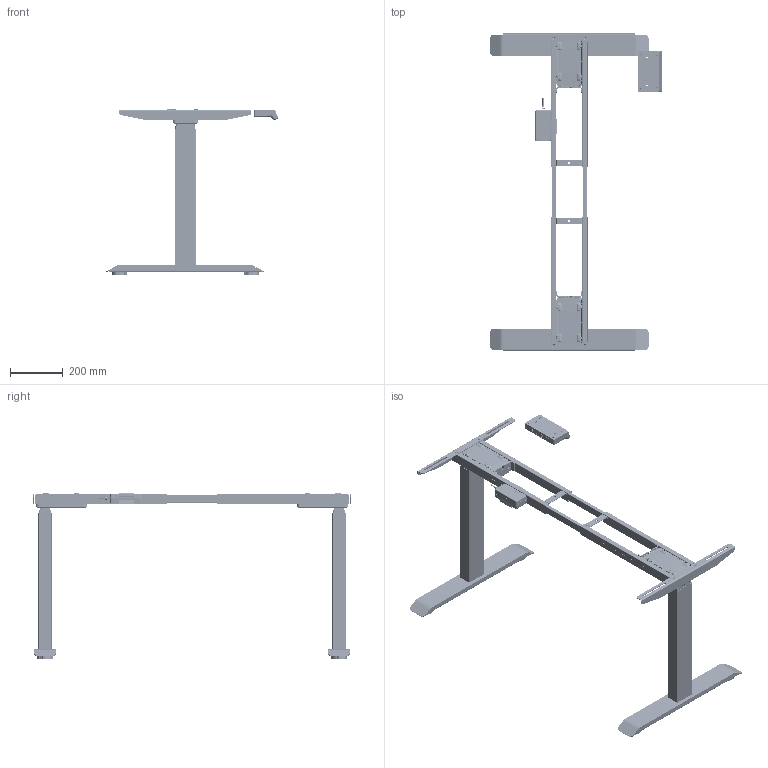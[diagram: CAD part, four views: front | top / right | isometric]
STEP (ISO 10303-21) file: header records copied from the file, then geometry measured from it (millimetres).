
FILE_DESCRIPTION (( 'STEP AP203' ), '1' );
FILE_NAME ('AK2YJYT-TYZB3-M80-T0437.STEP', '2026-06-16T05:52:46', ( '' ), ( '' ), 'SwSTEP 2.0', 'SolidWorks 2018', '' );
FILE_SCHEMA (( 'CONFIG_CONTROL_DESIGN' ));
Length unit declared in the file: millimetre
Products named in the file (37): ^1.15.048__AK2YJYT-TYZB3-M02(0241)-T0273(2)_AK2YJYT-TYZB3-M02(0241)-T0273; ________C1.96.008^_T797-_____AK2YJYT-TYZB3-M02(0241)-T0273(2)_AK2YJYT-TYZB3-M02(0241)-T0273; 1.12.011.X AK-DJ01E-600X-2^1.12.017 AK-DJ01-600X; AK-DJ01-600X-1^1.12.017 AK-DJ01-600X; T797-____^AK2YJYT-TYZB3-M02(0241)-T0273(2)_AK2YJYT-TYZB3-M02(0241)-T0273; 葩璃 (4) ^________C1.96.008__T797-_____AK2YJYT-TYZB3-M02(0241)-T0273(2)_AK2YJYT-TYZB3-M02(0241)-T0273; ________C1.96.008^葩璃 (2) _T797-_____AK2YJYT-TYZB3-M02(0241)-T0273(2)_AK2YJYT-TYZB3-M02(0241)-T0273; 1.17.021^__AK2YJYT-TYZB3-M02(0241)-T0273(2)_AK2YJYT-TYZB3-M02(0241)-T0273; 1.50.001^AK2YJYT-TYZB3-M02(0241)-T0273(2)_AK2YJYT-TYZB3-M02(0241)-T0273; 葩璃 (2) ^________C1.96.008_葩璃 (2) _T797-_____AK2YJYT-TYZB3-M02(0241)-T0273(2)_AK2YJYT-TYZB3-M02(0241)-T0273; 葩璃 (3) ^________C1.96.008_葩璃 (2) _T797-_____AK2YJYT-TYZB3-M02(0241)-T0273(2)_AK2YJYT-TYZB3-M02(0241)-T0273; 葩璃 (2) ^________C1.96.008__T797-_____AK2YJYT-TYZB3-M02(0241)-T0273(2)_AK2YJYT-TYZB3-M02(0241)-T0273; H76^AK2YJYT-TYZB3-M02(0241)-T0273(2)_AK2YJYT-TYZB3-M02(0241)-T0273; 1.27.068^_T797-_____AK2YJYT-TYZB3-M02(0241)-T0273(2)_AK2YJYT-TYZB3-M02(0241)-T0273; 1.14.016^_AK2YJYT-TYZB3-M02(0241)-T0273(2)_AK2YJYT-TYZB3-M02(0241)-T0273; 1.12.017 AK-DJ01-600X; 葩璃 (5) ^________C1.96.008_葩璃 (2) _T797-_____AK2YJYT-TYZB3-M02(0241)-T0273(2)_AK2YJYT-TYZB3-M02(0241)-T0273; 葩璃 (4) ^________C1.96.008_葩璃 (2) _T797-_____AK2YJYT-TYZB3-M02(0241)-T0273(2)_AK2YJYT-TYZB3-M02(0241)-T0273; ^________C1.96.008_葩璃 (2) _T797-_____AK2YJYT-TYZB3-M02(0241)-T0273(2)_AK2YJYT-TYZB3-M02(0241)-T0273; 葩璃 (3) ^________C1.96.008__T797-_____AK2YJYT-TYZB3-M02(0241)-T0273(2)_AK2YJYT-TYZB3-M02(0241)-T0273; AK-ZHHL02J-990A^T797-_____AK2YJYT-TYZB3-M02(0241)-T0273(2)_AK2YJYT-TYZB3-M02(0241)-T0273; AK2YJYT-TYZB3-M80-T0437; 1.20.019.X AK-SPQGDJ-01^AK2YJYT-TYZB3-M02(0241)-T0273(2)_AK2YJYT-TYZB3-M02(0241)-T0273; ^_AK2YJYT-TYZB3-M02(0241)-T0273(2)_AK2YJYT-TYZB3-M02(0241)-T0273; AS46^AK2YJYT-TYZB3-M02(0241)-T0273(2)_AK2YJYT-TYZB3-M02(0241)-T0273; 葩璃 (2) ^1.15.048__AK2YJYT-TYZB3-M02(0241)-T0273(2)_AK2YJYT-TYZB3-M02(0241)-T0273; ^T797-_____AK2YJYT-TYZB3-M02(0241)-T0273(2)_AK2YJYT-TYZB3-M02(0241)-T0273; ^__AK2YJYT-TYZB3-M02(0241)-T0273(2)_AK2YJYT-TYZB3-M02(0241)-T0273; 1.15.048^_AK2YJYT-TYZB3-M02(0241)-T0273(2)_AK2YJYT-TYZB3-M02(0241)-T0273; ^________C1.96.008__T797-_____AK2YJYT-TYZB3-M02(0241)-T0273(2)_AK2YJYT-TYZB3-M02(0241)-T0273; 葩璃 (5) ^________C1.96.008__T797-_____AK2YJYT-TYZB3-M02(0241)-T0273(2)_AK2YJYT-TYZB3-M02(0241)-T0273; 1.27.068^葩璃 (2) _T797-_____AK2YJYT-TYZB3-M02(0241)-T0273(2)_AK2YJYT-TYZB3-M02(0241)-T0273; 1.17.020^__AK2YJYT-TYZB3-M02(0241)-T0273(2)_AK2YJYT-TYZB3-M02(0241)-T0273; AK-ZYS05Y-500WC-T0194; ^AK2YJYT-TYZB3-M02(0241)-T0273(2)_AK2YJYT-TYZB3-M02(0241)-T0273; 葩璃 (2) ^T797-_____AK2YJYT-TYZB3-M02(0241)-T0273(2)_AK2YJYT-TYZB3-M02(0241)-T0273
Assembly tree (45 placements, depth 5):
  AK2YJYT-TYZB3-M80-T0437
    ^AK2YJYT-TYZB3-M02(0241)-T0273(2)_AK2YJYT-TYZB3-M02(0241)-T0273  x2
      ^_AK2YJYT-TYZB3-M02(0241)-T0273(2)_AK2YJYT-TYZB3-M02(0241)-T0273
        1.17.021^__AK2YJYT-TYZB3-M02(0241)-T0273(2)_AK2YJYT-TYZB3-M02(0241)-T0273
        1.17.020^__AK2YJYT-TYZB3-M02(0241)-T0273(2)_AK2YJYT-TYZB3-M02(0241)-T0273
        ^__AK2YJYT-TYZB3-M02(0241)-T0273(2)_AK2YJYT-TYZB3-M02(0241)-T0273
      1.15.048^_AK2YJYT-TYZB3-M02(0241)-T0273(2)_AK2YJYT-TYZB3-M02(0241)-T0273
        ^1.15.048__AK2YJYT-TYZB3-M02(0241)-T0273(2)_AK2YJYT-TYZB3-M02(0241)-T0273
        葩璃 (2) ^1.15.048__AK2YJYT-TYZB3-M02(0241)-T0273(2)_AK2YJYT-TYZB3-M02(0241)-T0273
      1.14.016^_AK2YJYT-TYZB3-M02(0241)-T0273(2)_AK2YJYT-TYZB3-M02(0241)-T0273
      ^_AK2YJYT-TYZB3-M02(0241)-T0273(2)_AK2YJYT-TYZB3-M02(0241)-T0273
    1.12.017 AK-DJ01-600X  x2
      1.12.011.X AK-DJ01E-600X-2^1.12.017 AK-DJ01-600X
      AK-DJ01-600X-1^1.12.017 AK-DJ01-600X
    T797-____^AK2YJYT-TYZB3-M02(0241)-T0273(2)_AK2YJYT-TYZB3-M02(0241)-T0273
      ^T797-_____AK2YJYT-TYZB3-M02(0241)-T0273(2)_AK2YJYT-TYZB3-M02(0241)-T0273
        ________C1.96.008^_T797-_____AK2YJYT-TYZB3-M02(0241)-T0273(2)_AK2YJYT-TYZB3-M02(0241)-T0273
          ^________C1.96.008__T797-_____AK2YJYT-TYZB3-M02(0241)-T0273(2)_AK2YJYT-TYZB3-M02(0241)-T0273
          葩璃 (2) ^________C1.96.008__T797-_____AK2YJYT-TYZB3-M02(0241)-T0273(2)_AK2YJYT-TYZB3-M02(0241)-T0273
          葩璃 (3) ^________C1.96.008__T797-_____AK2YJYT-TYZB3-M02(0241)-T0273(2)_AK2YJYT-TYZB3-M02(0241)-T0273
          葩璃 (4) ^________C1.96.008__T797-_____AK2YJYT-TYZB3-M02(0241)-T0273(2)_AK2YJYT-TYZB3-M02(0241)-T0273
          葩璃 (5) ^________C1.96.008__T797-_____AK2YJYT-TYZB3-M02(0241)-T0273(2)_AK2YJYT-TYZB3-M02(0241)-T0273
        1.27.068^_T797-_____AK2YJYT-TYZB3-M02(0241)-T0273(2)_AK2YJYT-TYZB3-M02(0241)-T0273  x2
      葩璃 (2) ^T797-_____AK2YJYT-TYZB3-M02(0241)-T0273(2)_AK2YJYT-TYZB3-M02(0241)-T0273
        ________C1.96.008^葩璃 (2) _T797-_____AK2YJYT-TYZB3-M02(0241)-T0273(2)_AK2YJYT-TYZB3-M02(0241)-T0273
          ^________C1.96.008_葩璃 (2) _T797-_____AK2YJYT-TYZB3-M02(0241)-T0273(2)_AK2YJYT-TYZB3-M02(0241)-T0273
          葩璃 (2) ^________C1.96.008_葩璃 (2) _T797-_____AK2YJYT-TYZB3-M02(0241)-T0273(2)_AK2YJYT-TYZB3-M02(0241)-T0273
          葩璃 (3) ^________C1.96.008_葩璃 (2) _T797-_____AK2YJYT-TYZB3-M02(0241)-T0273(2)_AK2YJYT-TYZB3-M02(0241)-T0273
          葩璃 (4) ^________C1.96.008_葩璃 (2) _T797-_____AK2YJYT-TYZB3-M02(0241)-T0273(2)_AK2YJYT-TYZB3-M02(0241)-T0273
          葩璃 (5) ^________C1.96.008_葩璃 (2) _T797-_____AK2YJYT-TYZB3-M02(0241)-T0273(2)_AK2YJYT-TYZB3-M02(0241)-T0273
        1.27.068^葩璃 (2) _T797-_____AK2YJYT-TYZB3-M02(0241)-T0273(2)_AK2YJYT-TYZB3-M02(0241)-T0273  x2
      AK-ZHHL02J-990A^T797-_____AK2YJYT-TYZB3-M02(0241)-T0273(2)_AK2YJYT-TYZB3-M02(0241)-T0273  x2
    AS46^AK2YJYT-TYZB3-M02(0241)-T0273(2)_AK2YJYT-TYZB3-M02(0241)-T0273
    AK-ZYS05Y-500WC-T0194  x2
    1.50.001^AK2YJYT-TYZB3-M02(0241)-T0273(2)_AK2YJYT-TYZB3-M02(0241)-T0273  x4
    H76^AK2YJYT-TYZB3-M02(0241)-T0273(2)_AK2YJYT-TYZB3-M02(0241)-T0273
    1.20.019.X AK-SPQGDJ-01^AK2YJYT-TYZB3-M02(0241)-T0273(2)_AK2YJYT-TYZB3-M02(0241)-T0273
Bounding box: 650.91 x 1200 x 625.8 mm (x, y, z)
Volume: 3011491.8 mm3; surface area: 3333319.4 mm2
Topology: 70 solids, 70 shells, 8538 faces, 23232 edges, 14927 vertices
Faces by surface type: plane 4546, cylinder 2792, bspline 646, torus 276, cone 148, sphere 130
Entity records: 229010 total; most frequent: CARTESIAN_POINT 75636, ORIENTED_EDGE 32842, DIRECTION 27900, EDGE_CURVE 16421, VECTOR 10942, LINE 10942, VERTEX_POINT 10645, AXIS2_PLACEMENT_3D 8479
